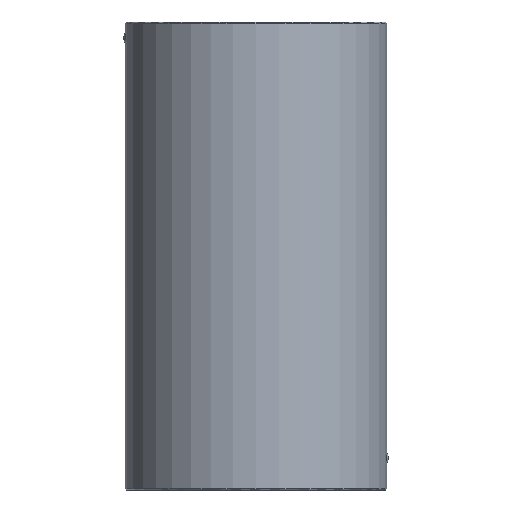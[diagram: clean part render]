
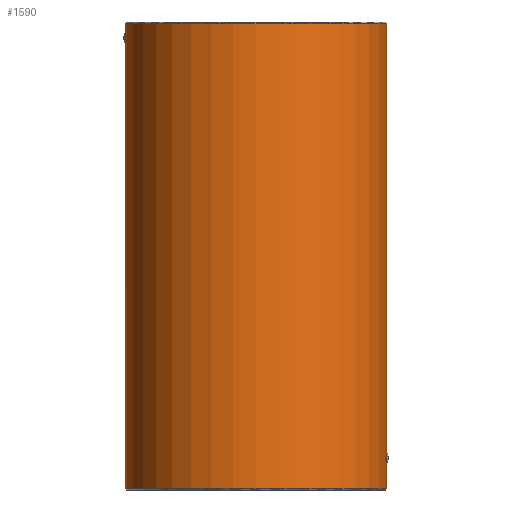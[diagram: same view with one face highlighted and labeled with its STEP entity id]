
A CAD part, front view. The second image highlights one B-rep face of the part: STEP entity #1590.
In plain terms, the highlighted cylindrical face has radius 33.5 mm (diameter 67 mm), a partial arc.
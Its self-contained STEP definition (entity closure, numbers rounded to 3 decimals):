
#1372=CARTESIAN_POINT('Vertex',(-33.5,0.,0.3)) ;
#1379=CARTESIAN_POINT('Vertex',(33.5,0.,0.3)) ;
#1382=CARTESIAN_POINT('Axis2P3D Location',(0.,0.,0.3)) ;
#1500=CARTESIAN_POINT('Axis2P3D Location',(0.,0.,120.)) ;
#1505=CARTESIAN_POINT('Line Origine',(33.5,0.,120.)) ;
#1509=CARTESIAN_POINT('Vertex',(33.5,0.,6.877)) ;
#1513=CARTESIAN_POINT('Control Point',(33.474,-1.326,8.462)) ;
#1514=CARTESIAN_POINT('Control Point',(33.47,-1.422,7.999)) ;
#1515=CARTESIAN_POINT('Control Point',(33.474,-1.307,7.489)) ;
#1516=CARTESIAN_POINT('Control Point',(33.492,-0.946,7.077)) ;
#1517=CARTESIAN_POINT('Control Point',(33.5,-0.473,6.877)) ;
#1518=CARTESIAN_POINT('Control Point',(33.5,0.,6.877)) ;
#1519=CARTESIAN_POINT('Vertex',(33.474,-1.326,8.462)) ;
#1523=CARTESIAN_POINT('Control Point',(33.5,0.,9.523)) ;
#1524=CARTESIAN_POINT('Control Point',(33.5,-0.368,9.523)) ;
#1525=CARTESIAN_POINT('Control Point',(33.495,-0.733,9.402)) ;
#1526=CARTESIAN_POINT('Control Point',(33.485,-1.05,9.157)) ;
#1527=CARTESIAN_POINT('Control Point',(33.477,-1.252,8.822)) ;
#1528=CARTESIAN_POINT('Control Point',(33.474,-1.326,8.462)) ;
#1529=CARTESIAN_POINT('Vertex',(33.5,0.,9.523)) ;
#1532=CARTESIAN_POINT('Line Origine',(33.5,0.,120.)) ;
#1536=CARTESIAN_POINT('Vertex',(33.5,0.,119.7)) ;
#1539=CARTESIAN_POINT('Axis2P3D Location',(0.,0.,119.7)) ;
#1543=CARTESIAN_POINT('Vertex',(-33.5,0.,119.7)) ;
#1546=CARTESIAN_POINT('Line Origine',(-33.5,0.,120.)) ;
#1550=CARTESIAN_POINT('Vertex',(-33.5,0.,117.223)) ;
#1554=CARTESIAN_POINT('Control Point',(-33.474,-1.326,115.638)) ;
#1555=CARTESIAN_POINT('Control Point',(-33.47,-1.422,116.101)) ;
#1556=CARTESIAN_POINT('Control Point',(-33.474,-1.307,116.611)) ;
#1557=CARTESIAN_POINT('Control Point',(-33.492,-0.946,117.023)) ;
#1558=CARTESIAN_POINT('Control Point',(-33.5,-0.473,117.223)) ;
#1559=CARTESIAN_POINT('Control Point',(-33.5,0.,117.223)) ;
#1560=CARTESIAN_POINT('Vertex',(-33.474,-1.326,115.638)) ;
#1564=CARTESIAN_POINT('Control Point',(-33.5,0.,114.577)) ;
#1565=CARTESIAN_POINT('Control Point',(-33.5,-0.368,114.577)) ;
#1566=CARTESIAN_POINT('Control Point',(-33.495,-0.733,114.698)) ;
#1567=CARTESIAN_POINT('Control Point',(-33.485,-1.05,114.943)) ;
#1568=CARTESIAN_POINT('Control Point',(-33.477,-1.252,115.278)) ;
#1569=CARTESIAN_POINT('Control Point',(-33.474,-1.326,115.638)) ;
#1570=CARTESIAN_POINT('Vertex',(-33.5,0.,114.577)) ;
#1573=CARTESIAN_POINT('Line Origine',(-33.5,0.,120.)) ;
#1383=DIRECTION('Axis2P3D Direction',(0.,-0.,1.)) ;
#1501=DIRECTION('Axis2P3D Direction',(0.,0.,-1.)) ;
#1502=DIRECTION('Axis2P3D XDirection',(1.,0.,0.)) ;
#1506=DIRECTION('Vector Direction',(0.,0.,-1.)) ;
#1533=DIRECTION('Vector Direction',(0.,0.,-1.)) ;
#1540=DIRECTION('Axis2P3D Direction',(0.,0.,-1.)) ;
#1547=DIRECTION('Vector Direction',(0.,0.,-1.)) ;
#1574=DIRECTION('Vector Direction',(0.,0.,-1.)) ;
#1384=AXIS2_PLACEMENT_3D('Circle Axis2P3D',#1382,#1383,$) ;
#1503=AXIS2_PLACEMENT_3D('Cylinder Axis2P3D',#1500,#1501,#1502) ;
#1541=AXIS2_PLACEMENT_3D('Circle Axis2P3D',#1539,#1540,$) ;
#1579=ORIENTED_EDGE('',*,*,#1511,.T.) ;
#1580=ORIENTED_EDGE('',*,*,#1521,.F.) ;
#1581=ORIENTED_EDGE('',*,*,#1531,.F.) ;
#1582=ORIENTED_EDGE('',*,*,#1538,.T.) ;
#1583=ORIENTED_EDGE('',*,*,#1545,.F.) ;
#1584=ORIENTED_EDGE('',*,*,#1552,.T.) ;
#1585=ORIENTED_EDGE('',*,*,#1562,.F.) ;
#1586=ORIENTED_EDGE('',*,*,#1572,.F.) ;
#1587=ORIENTED_EDGE('',*,*,#1577,.T.) ;
#1588=ORIENTED_EDGE('',*,*,#1386,.T.) ;
#1507=VECTOR('Line Direction',#1506,1.) ;
#1534=VECTOR('Line Direction',#1533,1.) ;
#1548=VECTOR('Line Direction',#1547,1.) ;
#1575=VECTOR('Line Direction',#1574,1.) ;
#1590=ADVANCED_FACE('730-60x120',(#1589),#1504,.T.) ;
#1512=B_SPLINE_CURVE_WITH_KNOTS('',5,(#1513,#1514,#1515,#1516,#1517,#1518),.UNSPECIFIED.,.F.,.U.,(6,6),(0.,3.352),.UNSPECIFIED.) ;
#1522=B_SPLINE_CURVE_WITH_KNOTS('',5,(#1523,#1524,#1525,#1526,#1527,#1528),.UNSPECIFIED.,.F.,.U.,(6,6),(0.,2.604),.UNSPECIFIED.) ;
#1553=B_SPLINE_CURVE_WITH_KNOTS('',5,(#1554,#1555,#1556,#1557,#1558,#1559),.UNSPECIFIED.,.F.,.U.,(6,6),(0.,3.352),.UNSPECIFIED.) ;
#1563=B_SPLINE_CURVE_WITH_KNOTS('',5,(#1564,#1565,#1566,#1567,#1568,#1569),.UNSPECIFIED.,.F.,.U.,(6,6),(0.,2.604),.UNSPECIFIED.) ;
#1385=CIRCLE('generated circle',#1384,33.5) ;
#1542=CIRCLE('generated circle',#1541,33.5) ;
#1504=CYLINDRICAL_SURFACE('generated cylinder',#1503,33.5) ;
#1386=EDGE_CURVE('',#1373,#1380,#1385,.T.) ;
#1511=EDGE_CURVE('',#1380,#1510,#1508,.F.) ;
#1521=EDGE_CURVE('',#1520,#1510,#1512,.T.) ;
#1531=EDGE_CURVE('',#1530,#1520,#1522,.T.) ;
#1538=EDGE_CURVE('',#1530,#1537,#1535,.F.) ;
#1545=EDGE_CURVE('',#1544,#1537,#1542,.F.) ;
#1552=EDGE_CURVE('',#1544,#1551,#1549,.T.) ;
#1562=EDGE_CURVE('',#1561,#1551,#1553,.T.) ;
#1572=EDGE_CURVE('',#1571,#1561,#1563,.T.) ;
#1577=EDGE_CURVE('',#1571,#1373,#1576,.T.) ;
#1578=EDGE_LOOP('',(#1579,#1580,#1581,#1582,#1583,#1584,#1585,#1586,#1587,#1588)) ;
#1589=FACE_OUTER_BOUND('',#1578,.T.) ;
#1508=LINE('Line',#1505,#1507) ;
#1535=LINE('Line',#1532,#1534) ;
#1549=LINE('Line',#1546,#1548) ;
#1576=LINE('Line',#1573,#1575) ;
#1373=VERTEX_POINT('',#1372) ;
#1380=VERTEX_POINT('',#1379) ;
#1510=VERTEX_POINT('',#1509) ;
#1520=VERTEX_POINT('',#1519) ;
#1530=VERTEX_POINT('',#1529) ;
#1537=VERTEX_POINT('',#1536) ;
#1544=VERTEX_POINT('',#1543) ;
#1551=VERTEX_POINT('',#1550) ;
#1561=VERTEX_POINT('',#1560) ;
#1571=VERTEX_POINT('',#1570) ;
